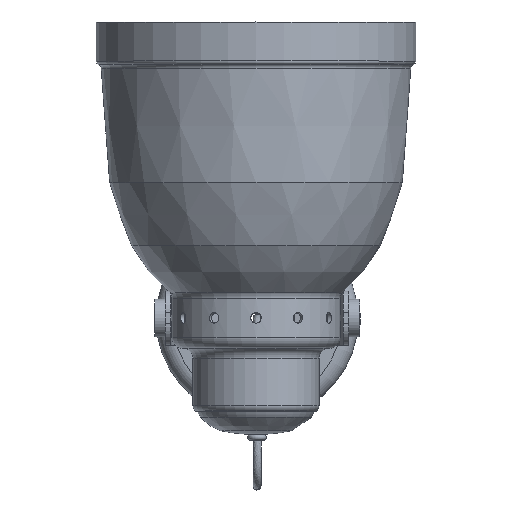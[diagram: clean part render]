
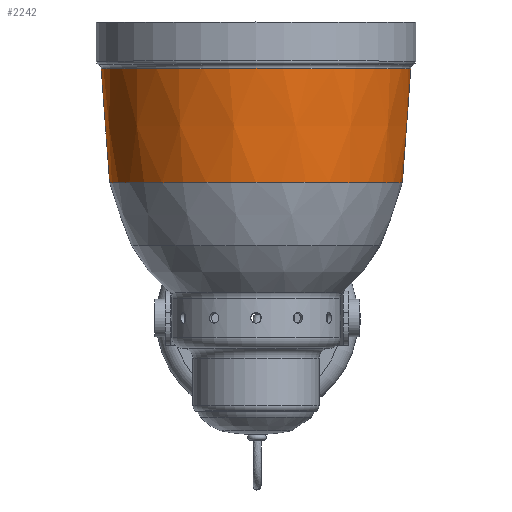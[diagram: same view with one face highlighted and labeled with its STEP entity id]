
A CAD part, top view. The second image highlights one B-rep face of the part: STEP entity #2242.
In plain terms, the highlighted free-form (B-spline) face has degree [2, 2] with [3, 9] control points.
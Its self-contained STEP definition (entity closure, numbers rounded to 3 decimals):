
#62=(
BOUNDED_SURFACE()
B_SPLINE_SURFACE(2,2,((#5452,#5453,#5454,#5455,#5456,#5457,#5458,#5459,
#5460),(#5461,#5462,#5463,#5464,#5465,#5466,#5467,#5468,#5469),(#5470,#5471,
#5472,#5473,#5474,#5475,#5476,#5477,#5478)),.UNSPECIFIED.,.F.,.T.,.F.)
B_SPLINE_SURFACE_WITH_KNOTS((3,3),(3,2,2,2,3),(-0.133,-0.016),
(-3.142,-1.571,0.,1.571,3.142),
 .UNSPECIFIED.)
GEOMETRIC_REPRESENTATION_ITEM()
RATIONAL_B_SPLINE_SURFACE(((1.,0.707,1.,0.707,1.,
0.707,1.,0.707,1.),(0.998,0.706,
0.998,0.706,0.998,0.706,
0.998,0.706,0.998),(1.,0.707,
1.,0.707,1.,0.707,1.,0.707,1.)))
REPRESENTATION_ITEM('')
SURFACE()
);
#403=CIRCLE('',#2705,54.276);
#404=CIRCLE('',#2706,54.276);
#406=CIRCLE('',#2708,57.43);
#407=CIRCLE('',#2709,57.43);
#408=CIRCLE('',#2710,362.66);
#525=FACE_OUTER_BOUND('',#677,.T.);
#677=EDGE_LOOP('',(#2067,#2068,#2069,#2070,#2071,#2072));
#1140=VERTEX_POINT('',#5447);
#1141=VERTEX_POINT('',#5448);
#1142=VERTEX_POINT('',#5479);
#1143=VERTEX_POINT('',#5480);
#1450=EDGE_CURVE('',#1140,#1141,#403,.T.);
#1451=EDGE_CURVE('',#1141,#1140,#404,.T.);
#1453=EDGE_CURVE('',#1142,#1143,#406,.T.);
#1454=EDGE_CURVE('',#1143,#1142,#407,.T.);
#1455=EDGE_CURVE('',#1143,#1141,#408,.T.);
#2067=ORIENTED_EDGE('',*,*,#1453,.F.);
#2068=ORIENTED_EDGE('',*,*,#1454,.F.);
#2069=ORIENTED_EDGE('',*,*,#1455,.T.);
#2070=ORIENTED_EDGE('',*,*,#1451,.T.);
#2071=ORIENTED_EDGE('',*,*,#1450,.T.);
#2072=ORIENTED_EDGE('',*,*,#1455,.F.);
#2242=ADVANCED_FACE('',(#525),#62,.F.);
#2705=AXIS2_PLACEMENT_3D('',#5449,#3334,#3335);
#2706=AXIS2_PLACEMENT_3D('',#5450,#3336,#3337);
#2708=AXIS2_PLACEMENT_3D('',#5481,#3340,#3341);
#2709=AXIS2_PLACEMENT_3D('',#5482,#3342,#3343);
#2710=AXIS2_PLACEMENT_3D('',#5483,#3344,#3345);
#3334=DIRECTION('center_axis',(0.,-1.,0.));
#3335=DIRECTION('ref_axis',(1.,0.,0.));
#3336=DIRECTION('center_axis',(0.,-1.,0.));
#3337=DIRECTION('ref_axis',(1.,0.,0.));
#3340=DIRECTION('center_axis',(0.,-1.,0.));
#3341=DIRECTION('ref_axis',(1.,0.,0.));
#3342=DIRECTION('center_axis',(0.,-1.,0.));
#3343=DIRECTION('ref_axis',(1.,0.,0.));
#3344=DIRECTION('center_axis',(-1.,0.,0.));
#3345=DIRECTION('ref_axis',(0.,0.,1.));
#5447=CARTESIAN_POINT('',(54.276,59.522,0.));
#5448=CARTESIAN_POINT('',(0.,59.522,54.276));
#5449=CARTESIAN_POINT('Origin',(0.,59.522,0.));
#5450=CARTESIAN_POINT('Origin',(0.,59.522,0.));
#5452=CARTESIAN_POINT('Ctrl Pts',(0.,59.522,54.276));
#5453=CARTESIAN_POINT('Ctrl Pts',(-54.276,59.522,54.276));
#5454=CARTESIAN_POINT('Ctrl Pts',(-54.276,59.522,0.));
#5455=CARTESIAN_POINT('Ctrl Pts',(-54.276,59.522,-54.276));
#5456=CARTESIAN_POINT('Ctrl Pts',(0.,59.522,-54.276));
#5457=CARTESIAN_POINT('Ctrl Pts',(54.276,59.522,-54.276));
#5458=CARTESIAN_POINT('Ctrl Pts',(54.276,59.522,0.));
#5459=CARTESIAN_POINT('Ctrl Pts',(54.276,59.522,54.276));
#5460=CARTESIAN_POINT('Ctrl Pts',(0.,59.522,54.276));
#5461=CARTESIAN_POINT('Ctrl Pts',(0.,38.475,57.091));
#5462=CARTESIAN_POINT('Ctrl Pts',(-57.091,38.475,57.091));
#5463=CARTESIAN_POINT('Ctrl Pts',(-57.091,38.475,0.));
#5464=CARTESIAN_POINT('Ctrl Pts',(-57.091,38.475,-57.091));
#5465=CARTESIAN_POINT('Ctrl Pts',(0.,38.475,-57.091));
#5466=CARTESIAN_POINT('Ctrl Pts',(57.091,38.475,-57.091));
#5467=CARTESIAN_POINT('Ctrl Pts',(57.091,38.475,0.));
#5468=CARTESIAN_POINT('Ctrl Pts',(57.091,38.475,57.091));
#5469=CARTESIAN_POINT('Ctrl Pts',(0.,38.475,57.091));
#5470=CARTESIAN_POINT('Ctrl Pts',(0.,17.245,57.43));
#5471=CARTESIAN_POINT('Ctrl Pts',(-57.43,17.245,57.43));
#5472=CARTESIAN_POINT('Ctrl Pts',(-57.43,17.245,0.));
#5473=CARTESIAN_POINT('Ctrl Pts',(-57.43,17.245,-57.43));
#5474=CARTESIAN_POINT('Ctrl Pts',(0.,17.245,-57.43));
#5475=CARTESIAN_POINT('Ctrl Pts',(57.43,17.245,-57.43));
#5476=CARTESIAN_POINT('Ctrl Pts',(57.43,17.245,0.));
#5477=CARTESIAN_POINT('Ctrl Pts',(57.43,17.245,57.43));
#5478=CARTESIAN_POINT('Ctrl Pts',(0.,17.245,57.43));
#5479=CARTESIAN_POINT('',(57.43,17.245,0.));
#5480=CARTESIAN_POINT('',(0.,17.245,57.43));
#5481=CARTESIAN_POINT('Origin',(0.,17.245,0.));
#5482=CARTESIAN_POINT('Origin',(0.,17.245,0.));
#5483=CARTESIAN_POINT('Origin',(0.,11.45,-305.184));
